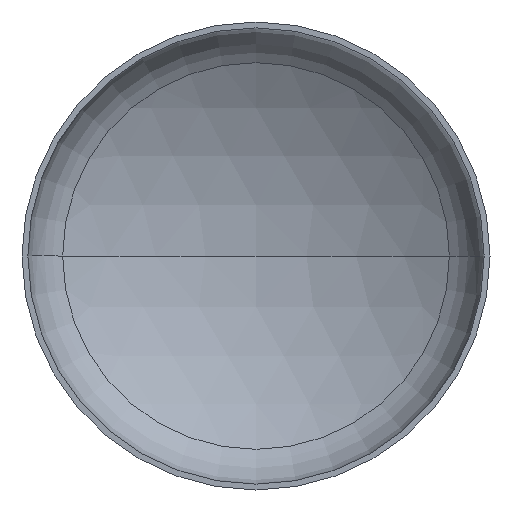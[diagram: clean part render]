
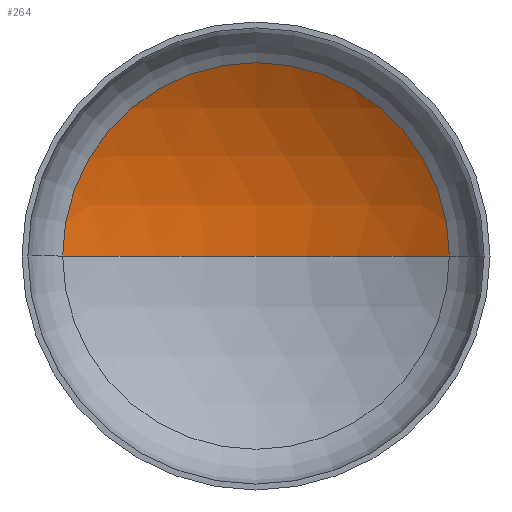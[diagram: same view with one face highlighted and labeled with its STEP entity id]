
A CAD part, front view. The second image highlights one B-rep face of the part: STEP entity #264.
In plain terms, the highlighted spherical face has radius 6400 mm.
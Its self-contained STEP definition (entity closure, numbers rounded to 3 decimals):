
#25 = DIRECTION ( 'NONE',  ( 0., 0., -1. ) ) ;
#30 = ORIENTED_EDGE ( 'NONE', *, *, #162, .F. ) ;
#31 = AXIS2_PLACEMENT_3D ( 'NONE', #41, #25, #178 ) ;
#41 = CARTESIAN_POINT ( 'NONE',  ( 0., -4327.189, 0. ) ) ;
#58 = AXIS2_PLACEMENT_3D ( 'NONE', #211, #256, #253 ) ;
#66 = AXIS2_PLACEMENT_3D ( 'NONE', #180, #197, #199 ) ;
#68 = AXIS2_PLACEMENT_3D ( 'NONE', #366, #210, #223 ) ;
#112 = VERTEX_POINT ( 'NONE', #278 ) ;
#118 = EDGE_LOOP ( 'NONE', ( #30, #139, #126 ) ) ;
#119 = VERTEX_POINT ( 'NONE', #240 ) ;
#126 = ORIENTED_EDGE ( 'NONE', *, *, #154, .T. ) ;
#129 = VERTEX_POINT ( 'NONE', #316 ) ;
#139 = ORIENTED_EDGE ( 'NONE', *, *, #156, .T. ) ;
#154 = EDGE_CURVE ( 'NONE', #129, #112, #225, .T. ) ;
#156 = EDGE_CURVE ( 'NONE', #119, #129, #406, .T. ) ;
#162 = EDGE_CURVE ( 'NONE', #119, #112, #170, .T. ) ;
#170 = CIRCLE ( 'NONE', #58, 6400. ) ;
#178 = DIRECTION ( 'NONE',  ( -1., 0., 0. ) ) ;
#180 = CARTESIAN_POINT ( 'NONE',  ( 0., -4327.189, 0. ) ) ;
#197 = DIRECTION ( 'NONE',  ( 0., 0., -1. ) ) ;
#199 = DIRECTION ( 'NONE',  ( -1., 0., 0. ) ) ;
#210 = DIRECTION ( 'NONE',  ( 0., -1., 0. ) ) ;
#211 = CARTESIAN_POINT ( 'NONE',  ( 0., -4327.189, 0. ) ) ;
#216 = FACE_OUTER_BOUND ( 'NONE', #118, .T. ) ;
#223 = DIRECTION ( 'NONE',  ( 1., 0., 0. ) ) ;
#225 = CIRCLE ( 'NONE', #68, 3305.222 ) ;
#240 = CARTESIAN_POINT ( 'NONE',  ( 0., 2072.811, 0. ) ) ;
#253 = DIRECTION ( 'NONE',  ( 1., 0., 0. ) ) ;
#256 = DIRECTION ( 'NONE',  ( 0., 0., 1. ) ) ;
#264 = ADVANCED_FACE ( 'NONE', ( #216 ), #391, .F. ) ;
#278 = CARTESIAN_POINT ( 'NONE',  ( -3305.222, 1153.277, 0. ) ) ;
#316 = CARTESIAN_POINT ( 'NONE',  ( 3305.222, 1153.277, 0. ) ) ;
#366 = CARTESIAN_POINT ( 'NONE',  ( 0., 1153.277, 0. ) ) ;
#391 = SPHERICAL_SURFACE ( 'NONE', #31, 6400. ) ;
#406 = CIRCLE ( 'NONE', #66, 6400. ) ;
